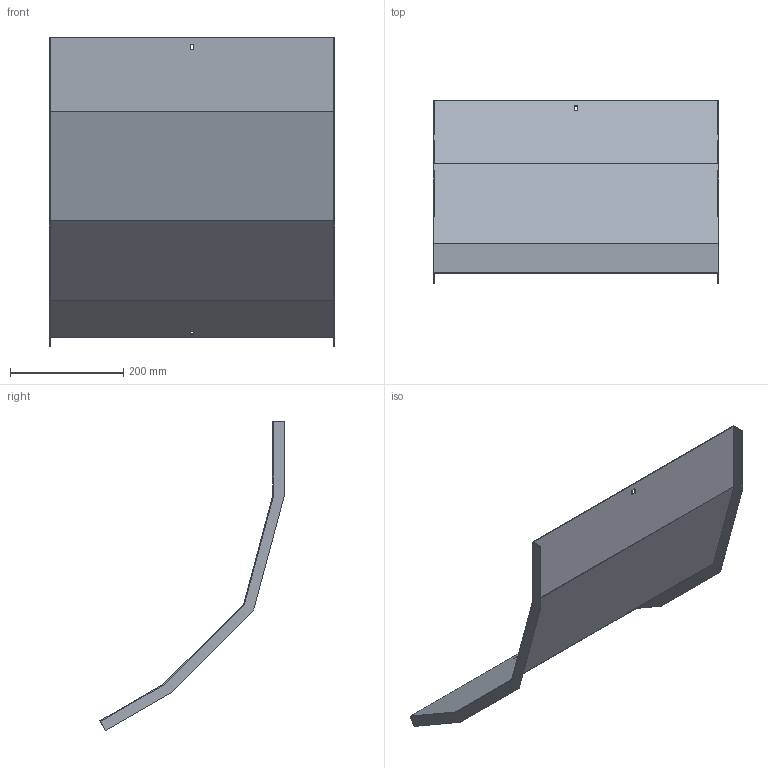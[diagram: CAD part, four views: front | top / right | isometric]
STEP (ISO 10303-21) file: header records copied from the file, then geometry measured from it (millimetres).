
FILE_DESCRIPTION (( 'STEP AP214' ), '1' );
FILE_NAME ('40N5R500_H150.step', '2025-02-21T14:29:12', ( '' ), ( '' ), 'SwSTEP 2.0', 'SolidWorks 2023', '' );
FILE_SCHEMA (( 'AUTOMOTIVE_DESIGN' ));
Length unit declared in the file: millimetre
Products named in the file (1): 40N5R500_H150
Bounding box: 503 x 324.8 x 545.25 mm (x, y, z)
Volume: 534039.7 mm3; surface area: 715801.2 mm2
Topology: 1 solids, 1 shells, 30 faces, 84 edges, 56 vertices
Faces by surface type: plane 30
Entity records: 979 total; most frequent: CARTESIAN_POINT 171, ORIENTED_EDGE 168, DIRECTION 146, LINE 84, VECTOR 84, EDGE_CURVE 84, VERTEX_POINT 56, EDGE_LOOP 34
